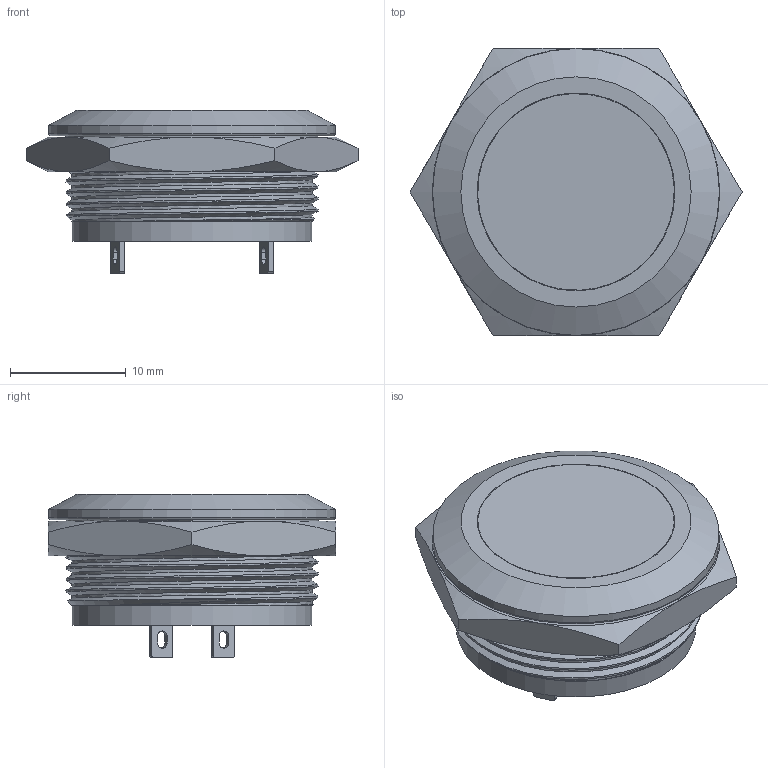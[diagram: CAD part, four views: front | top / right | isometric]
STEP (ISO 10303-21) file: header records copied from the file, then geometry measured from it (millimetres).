
FILE_DESCRIPTION(/* description */ (''),/* implementation_level */ '2;1');
FILE_NAME(/* name */ 'EJ22-211PM.stp',/* time_stamp */ '2019-11-08T13:56:55+08:00',/* author */ (''),/* organization */ (''),/* preprocessor_version */ 'ST-DEVELOPER v11',/* originating_system */ 'SIEMENS UGS NX 6.0',/* authorisation */ '');
FILE_SCHEMA (('CONFIG_CONTROL_DESIGN'));
Length unit declared in the file: millimetre
Products named in the file (7): JH7.740.176; JH7.810.263; JH8.382.063; JH7.370.460; JH8.382.287; JH8.382.288; EJ22-211PM
Assembly tree (7 placements, depth 2):
  EJ22-211PM
    JH8.382.288
    JH8.382.287
    JH7.370.460
    JH8.382.063
    JH7.810.263
    JH7.740.176  x2
Bounding box: 28.7 x 24.85 x 14.1 mm (x, y, z)
Volume: 2994.1 mm3; surface area: 5588.4 mm2
Topology: 8 solids, 8 shells, 224 faces, 545 edges, 357 vertices
Faces by surface type: plane 145, cylinder 44, cone 18, extrusion 8, bspline 5, torus 4
Full cylindrical faces by diameter (mm): 3.8 x2, 4.2 x1, 7.8 x1, 13.45 x1, 14.5 x2, 17 x2, 17.1 x1, 17.65 x1, 19.9 x1, 20.1 x1, 20.7 x1, 24.8 x1
Entity records: 8283 total; most frequent: CARTESIAN_POINT 2998, ORIENTED_EDGE 914, DIRECTION 860, EDGE_CURVE 457, VERTEX_POINT 312, AXIS2_PLACEMENT_3D 300, VECTOR 260, EDGE_LOOP 259
